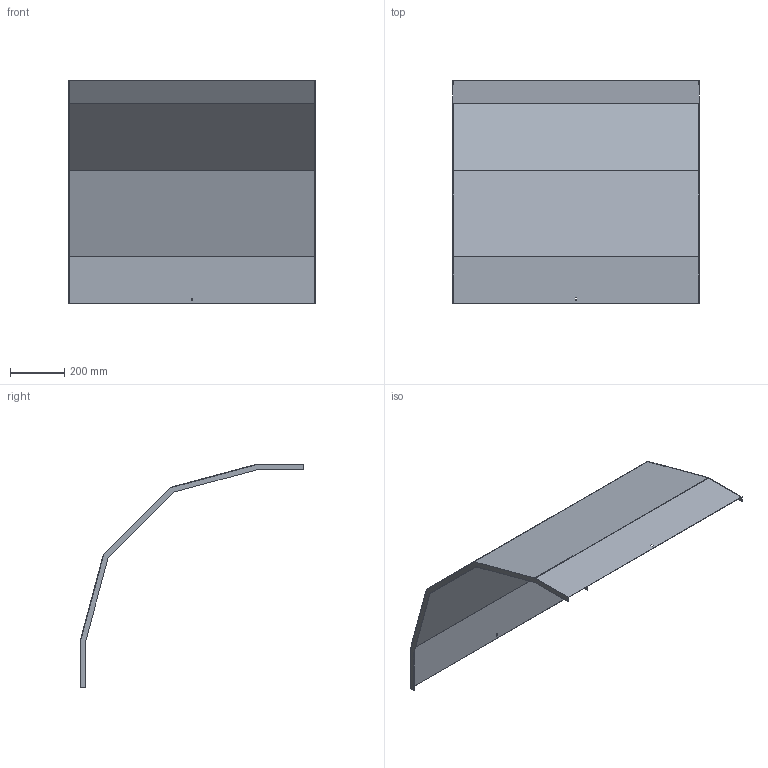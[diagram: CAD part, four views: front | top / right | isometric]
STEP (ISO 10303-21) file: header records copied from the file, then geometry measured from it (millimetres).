
FILE_DESCRIPTION (( 'STEP AP214' ), '1' );
FILE_NAME ('33N5F900.step', '2025-02-21T14:26:01', ( '' ), ( '' ), 'SwSTEP 2.0', 'SolidWorks 2023', '' );
FILE_SCHEMA (( 'AUTOMOTIVE_DESIGN' ));
Length unit declared in the file: millimetre
Products named in the file (1): 33N5F900
Bounding box: 903 x 820.4 x 820.4 mm (x, y, z)
Volume: 1899292.1 mm3; surface area: 2539257.1 mm2
Topology: 1 solids, 1 shells, 34 faces, 96 edges, 64 vertices
Faces by surface type: plane 34
Entity records: 1111 total; most frequent: CARTESIAN_POINT 195, ORIENTED_EDGE 192, DIRECTION 166, VECTOR 96, LINE 96, EDGE_CURVE 96, VERTEX_POINT 64, EDGE_LOOP 38
